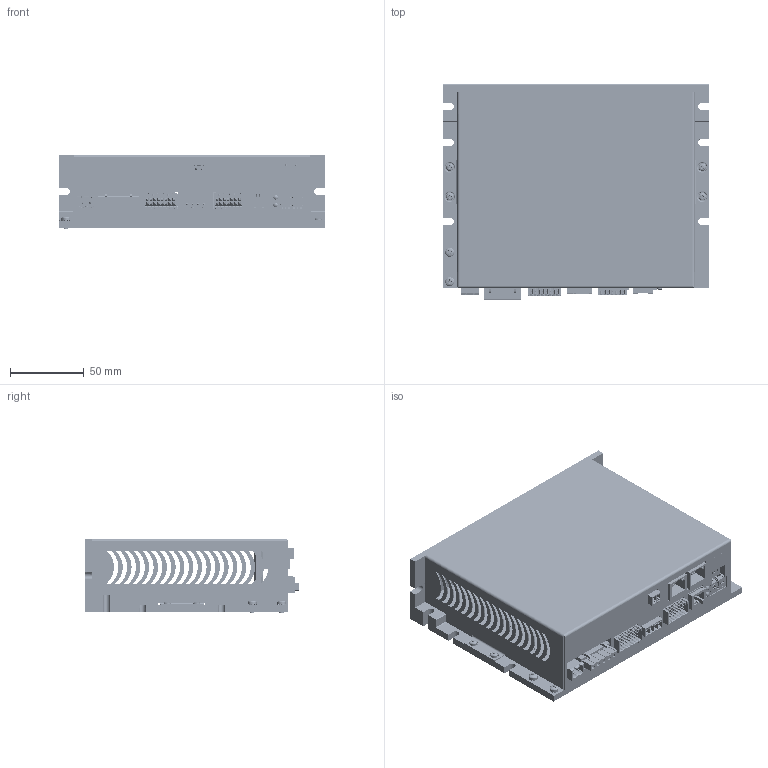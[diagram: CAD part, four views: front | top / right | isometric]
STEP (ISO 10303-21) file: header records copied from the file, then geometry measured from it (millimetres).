
FILE_DESCRIPTION(/* description */ ('Unknown'),/* implementation_level */ '2;1');
FILE_NAME(/* name */ 'AW5A6750T221-20',/* time_stamp */ '2021-09-21T15:35:49+02:00',/* author */ ('Unknown'),/* organization */ ('Unknown'),/* preprocessor_version */ 'ST-DEVELOPER v16.7',/* originating_system */ 'Solid Edge',/* authorisation */ 'Unknown');
FILE_SCHEMA (('AUTOMOTIVE_DESIGN {1 0 10303 214 3 1 1}'));
Products named in the file (54): SW5A9030; estruso_sw5a9030_isd04_inserti; ESTRUSO_SW5A9030_ISD04; inserto_m2_5x12mm; ad_01121_sw5a9030_isd04; hexdist_MF_M2e5 x 30mm; dentellata_M3; tcc_M2e5x05; ISD04-00_oa_0; Board; Open CASCADE STEP translator 6.8 2.1.1; CN7; 1782378; mc_1.5-4-g-3.81-p14-thr; CN3; dinkle_0156-1514; CN2A; 1927878_3D; IC_2_5-5-G-5_08-225340_ASM; IC_2_5-5-G-5_08-217880; CN4; dinkle_0156-1516l; GL400; 5151061f; J400; IMD03DIP-00; DIP100; a6e-4104; SW401; RTE0400V04; SW400; CN6; 955012641; Open CASCADE STEP translator 6.8 2.503.1.1; Open CASCADE STEP translator 6.8 2.503.1.2; CN1; CA02MHLT5.08B_1757242; MSTBA_2_5-2-G-5_08-72070_ASM; MSTBA_2_5-2-G-5_08-69580; tcc_M3x06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
Assembly tree (72 placements, depth 6):
  SW5A9030
    estruso_sw5a9030_isd04_inserti
      ESTRUSO_SW5A9030_ISD04
      inserto_m2_5x12mm  x3
    ad_01121_sw5a9030_isd04
    hexdist_MF_M2e5 x 30mm  x2
    dentellata_M3  x2
    tcc_M2e5x05  x12
    ISD04-00_oa_0
      Board
        Open CASCADE STEP translator 6.8 2.1.1
      CN7
        1782378
          mc_1.5-4-g-3.81-p14-thr
      CN3
        dinkle_0156-1514
      CN2A
        1927878_3D
          IC_2_5-5-G-5_08-225340_ASM
            IC_2_5-5-G-5_08-217880
      CN4
        dinkle_0156-1516l
      GL400
        5151061f
      J400
        IMD03DIP-00
          Board
          DIP100
            a6e-4104
      SW401
        RTE0400V04
      SW400
        RTE0400V04
      CN6
        955012641
          Open CASCADE STEP translator 6.8 2.503.1.1
          Open CASCADE STEP translator 6.8 2.503.1.2
      CN1
        CA02MHLT5.08B_1757242
          MSTBA_2_5-2-G-5_08-72070_ASM
            MSTBA_2_5-2-G-5_08-69580
    tcc_M3x06  x2
    Scatola SW5A9030 con ISD04
    PFX04-00_oa_1
      Board
        Open CASCADE STEP translator 6.8 2.1.1
      CN14
        PHOENIX_1782352
          mc_1.5-2-g-3.81-p14-thr
      CN15B
        J0011D01BNL
      CN15A
        J0011D01BNL
      LED402
        LED_HSMx-C680
      LED401
        LED_HSMx-C680
Bounding box: 180.7 x 146.11 x 50.4 mm (x, y, z)
Volume: 278875.9 mm3; surface area: 236411.6 mm2
Topology: 41 solids, 70 shells, 7609 faces, 20508 edges, 13271 vertices
Faces by surface type: plane 5403, cylinder 1677, bspline 230, cone 133, sphere 86, torus 80
Full cylindrical faces by diameter (mm): 0.434 x1, 0.457 x3, 0.762 x48, 0.8 x16, 0.889 x16, 0.9 x20, 1 x25, 1.016 x54, 1.2 x10, 1.25 x6, 1.27 x2, 1.397 x1, 1.4 x53, 1.5 x6, 1.524 x6, 1.53 x1, 1.55 x1, 1.6 x14, 1.778 x4, 2.013 x9, 2.032 x6, 2.05 x3, 2.459 x2, 2.5 x21, 2.7 x10, 2.75 x2, 2.8 x5, 3 x6, 3.048 x2, 3.2 x8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
Entity records: 231677 total; most frequent: CARTESIAN_POINT 41688, ORIENTED_EDGE 33550, DIRECTION 31877, EDGE_CURVE 16811, LINE 12807, VECTOR 12807, VERTEX_POINT 11161, AXIS2_PLACEMENT_3D 9535
